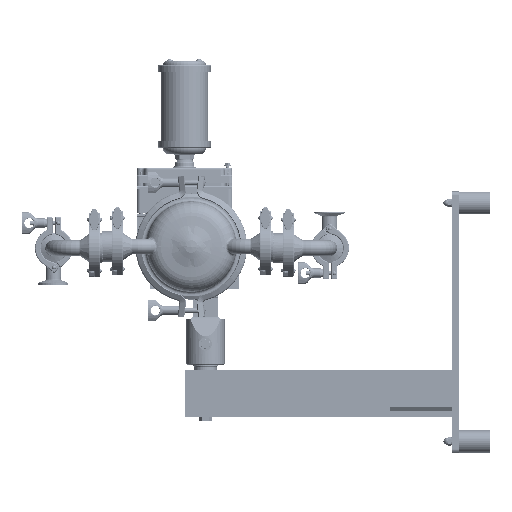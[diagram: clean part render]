
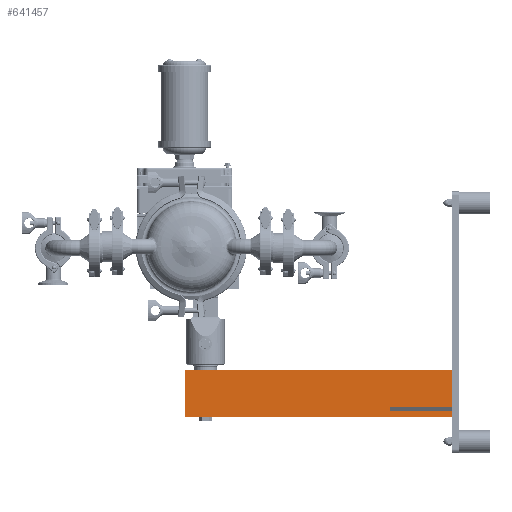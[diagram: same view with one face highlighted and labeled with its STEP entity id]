
A CAD part, left-side view. The second image highlights one B-rep face of the part: STEP entity #641457.
In plain terms, the highlighted planar face has unit normal (-1, 0, 0).
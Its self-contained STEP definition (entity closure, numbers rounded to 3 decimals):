
#632439=DIRECTION('',(0.,0.,-1.));
#632440=VECTOR('',#632439,2.39);
#632441=CARTESIAN_POINT('',(-1.,-16.92,-8.058));
#632442=LINE('',#632441,#632440);
#632471=DIRECTION('',(0.,0.,-1.));
#632472=VECTOR('',#632471,0.36);
#632473=CARTESIAN_POINT('',(-1.,-16.92,-10.698));
#632474=LINE('',#632473,#632472);
#633079=DIRECTION('',(0.,1.,0.));
#633080=VECTOR('',#633079,17.313);
#633081=CARTESIAN_POINT('',(-1.,-16.92,-11.058));
#633082=LINE('',#633081,#633080);
#633083=DIRECTION('',(0.,1.,0.));
#633084=VECTOR('',#633083,4.);
#633085=CARTESIAN_POINT('',(-1.,-16.92,-10.448));
#633086=LINE('',#633085,#633084);
#633087=DIRECTION('',(0.,0.,-1.));
#633088=VECTOR('',#633087,0.25);
#633089=CARTESIAN_POINT('',(-1.,-12.92,-10.448));
#633090=LINE('',#633089,#633088);
#633091=DIRECTION('',(0.,1.,0.));
#633092=VECTOR('',#633091,4.);
#633093=CARTESIAN_POINT('',(-1.,-16.92,-10.698));
#633094=LINE('',#633093,#633092);
#633697=DIRECTION('',(0.,1.,0.));
#633698=VECTOR('',#633697,17.313);
#633699=CARTESIAN_POINT('',(-1.,-16.92,-8.058));
#633700=LINE('',#633699,#633698);
#634295=DIRECTION('',(0.,0.,1.));
#634296=VECTOR('',#634295,3.);
#634297=CARTESIAN_POINT('',(-1.,0.393,-11.058));
#634298=LINE('',#634297,#634296);
#640097=CARTESIAN_POINT('',(-1.,-16.92,-11.058));
#640099=VERTEX_POINT('',#640097);
#640102=CARTESIAN_POINT('',(-1.,-16.92,-8.058));
#640104=VERTEX_POINT('',#640102);
#640125=CARTESIAN_POINT('',(-1.,-16.92,-10.448));
#640127=VERTEX_POINT('',#640125);
#640129=CARTESIAN_POINT('',(-1.,-16.92,-10.698));
#640131=VERTEX_POINT('',#640129);
#640133=CARTESIAN_POINT('',(-1.,-12.92,-10.448));
#640134=VERTEX_POINT('',#640133);
#640135=CARTESIAN_POINT('',(-1.,-12.92,-10.698));
#640136=VERTEX_POINT('',#640135);
#640138=CARTESIAN_POINT('',(-1.,0.393,-11.058));
#640140=VERTEX_POINT('',#640138);
#640141=CARTESIAN_POINT('',(-1.,0.393,-8.058));
#640142=VERTEX_POINT('',#640141);
#641439=CARTESIAN_POINT('',(-1.,0.143,-8.058));
#641440=DIRECTION('',(-1.,0.,0.));
#641441=DIRECTION('',(0.,0.,-1.));
#641442=AXIS2_PLACEMENT_3D('',#641439,#641440,#641441);
#641443=PLANE('',#641442);
#641445=ORIENTED_EDGE('',*,*,#641444,.T.);
#641447=ORIENTED_EDGE('',*,*,#641446,.T.);
#641449=ORIENTED_EDGE('',*,*,#641448,.F.);
#641450=ORIENTED_EDGE('',*,*,#640596,.T.);
#641451=ORIENTED_EDGE('',*,*,#641408,.T.);
#641452=ORIENTED_EDGE('',*,*,#641421,.T.);
#641453=ORIENTED_EDGE('',*,*,#641433,.F.);
#641454=ORIENTED_EDGE('',*,*,#640612,.T.);
#641455=EDGE_LOOP('',(#641445,#641447,#641449,#641450,#641451,#641452,#641453,
#641454));
#641456=FACE_OUTER_BOUND('',#641455,.F.);
#641457=ADVANCED_FACE('',(#641456),#641443,.T.);
#640596=EDGE_CURVE('',#640104,#640127,#632442,.T.);
#640612=EDGE_CURVE('',#640131,#640099,#632474,.T.);
#641408=EDGE_CURVE('',#640127,#640134,#633086,.T.);
#641421=EDGE_CURVE('',#640134,#640136,#633090,.T.);
#641433=EDGE_CURVE('',#640131,#640136,#633094,.T.);
#641444=EDGE_CURVE('',#640099,#640140,#633082,.T.);
#641446=EDGE_CURVE('',#640140,#640142,#634298,.T.);
#641448=EDGE_CURVE('',#640104,#640142,#633700,.T.);
